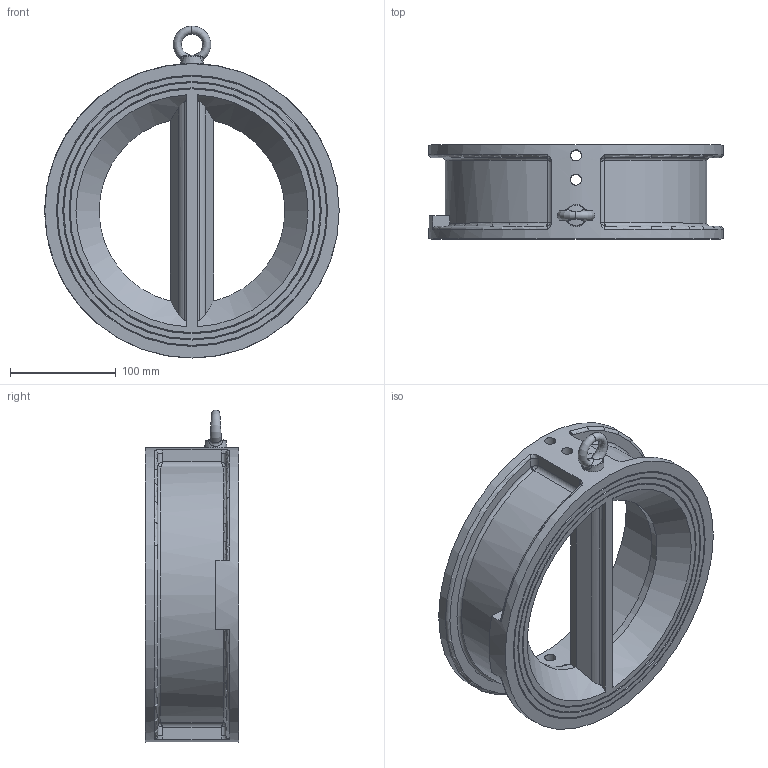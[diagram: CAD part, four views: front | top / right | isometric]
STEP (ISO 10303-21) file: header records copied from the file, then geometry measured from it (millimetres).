
FILE_DESCRIPTION (( 'STEP AP203' ), '1' );
FILE_NAME ('5306 DN200 ×°Åä PN25.STEP', '2026-05-08T01:00:23', ( '' ), ( '' ), 'SwSTEP 2.0', 'SolidWorks 2018', '' );
FILE_SCHEMA (( 'CONFIG_CONTROL_DESIGN' ));
Length unit declared in the file: millimetre
Products named in the file (3): 5306 DN200 蚾饜 PN25; 5306 DN200 概极; GB╱T 825-1988[吊环螺钉M8]_M8
Assembly tree (2 placements, depth 2):
  5306 DN200 蚾饜 PN25
    5306 DN200 概极
    GB╱T 825-1988[吊环螺钉M8]_M8
Bounding box: 279 x 89 x 314.6 mm (x, y, z)
Volume: 1669870.8 mm3; surface area: 249328.4 mm2
Topology: 2 solids, 4 shells, 146 faces, 348 edges, 201 vertices
Faces by surface type: bspline 41, cylinder 35, plane 31, cone 26, torus 13
Full cylindrical faces by diameter (mm): 6.8 x1, 8 x1, 10.4 x4, 10.6 x4, 13 x1, 224 x1, 279 x1
Entity records: 7569 total; most frequent: CARTESIAN_POINT 4586, ORIENTED_EDGE 554, DIRECTION 482, EDGE_CURVE 277, AXIS2_PLACEMENT_3D 215, EDGE_LOOP 203, VERTEX_POINT 184, FACE_OUTER_BOUND 161
